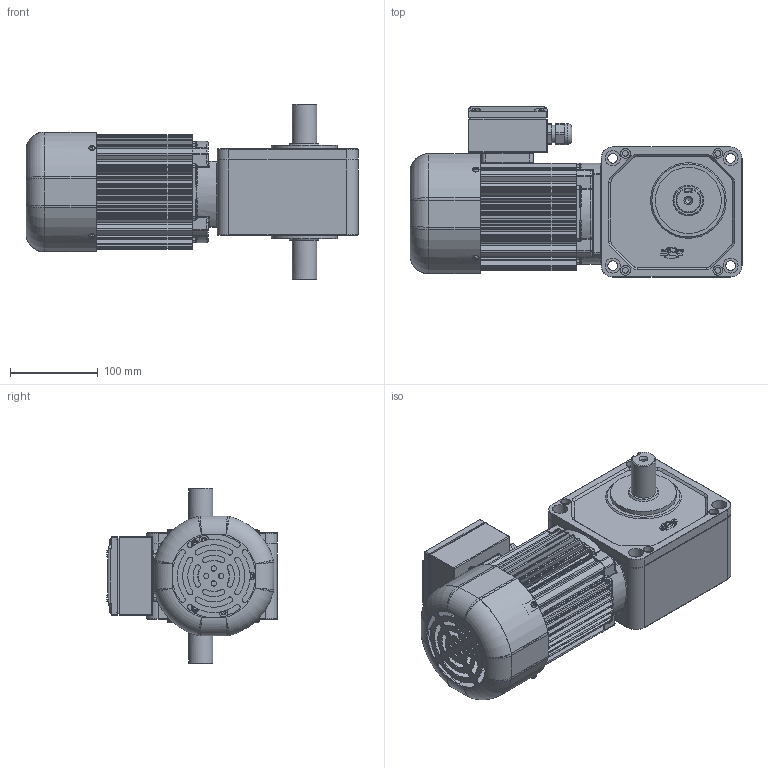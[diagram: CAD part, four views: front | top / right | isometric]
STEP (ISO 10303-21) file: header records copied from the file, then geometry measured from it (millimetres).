
FILE_DESCRIPTION(/* description */ (''),/* implementation_level */ '2;1');
FILE_NAME(/* name */ 'Z:\동력 3D 파일\PCS28B_0.2kW_Brake_3D.stp',/* time_stamp */ '2021-11-09T10:55:10+09:00',/* author */ ('jaebok'),/* organization */ (''),/* preprocessor_version */ 'ST-DEVELOPER v18.1',/* originating_system */ 'Autodesk Inventor 2022',/* authorisation */ '');
FILE_SCHEMA (('AUTOMOTIVE_DESIGN { 1 0 10303 214 3 1 1 }'));
Products named in the file (1): 부품44
Bounding box: 377.5 x 193.5 x 200 mm (x, y, z)
Volume: 2134131.8 mm3; surface area: 595478.8 mm2
Topology: 2 solids, 26 shells, 2115 faces, 5370 edges, 3395 vertices
Faces by surface type: plane 989, cylinder 799, torus 106, cone 105, bspline 104, sphere 12
Full cylindrical faces by diameter (mm): 1.5 x2, 2 x4, 3 x4, 3.242 x4, 3.25 x1, 3.3 x8, 3.6 x4, 3.8 x3, 4 x20, 4.2 x9, 5 x18, 5.8 x2, 5.9 x3, 6 x17, 6.4 x1, 6.5 x10, 6.647 x2, 7 x12, 7.9 x6, 8 x4, 8.5 x1, 8.7 x1, 10 x1, 11 x8, 12.5 x1, 15 x1, 16 x1, 17 x12, 20 x2, 21 x1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
Entity records: 72222 total; most frequent: CARTESIAN_POINT 18736, DIRECTION 11136, ORIENTED_EDGE 10628, EDGE_CURVE 5314, AXIS2_PLACEMENT_3D 4201, VERTEX_POINT 3391, LINE 2734, VECTOR 2734
